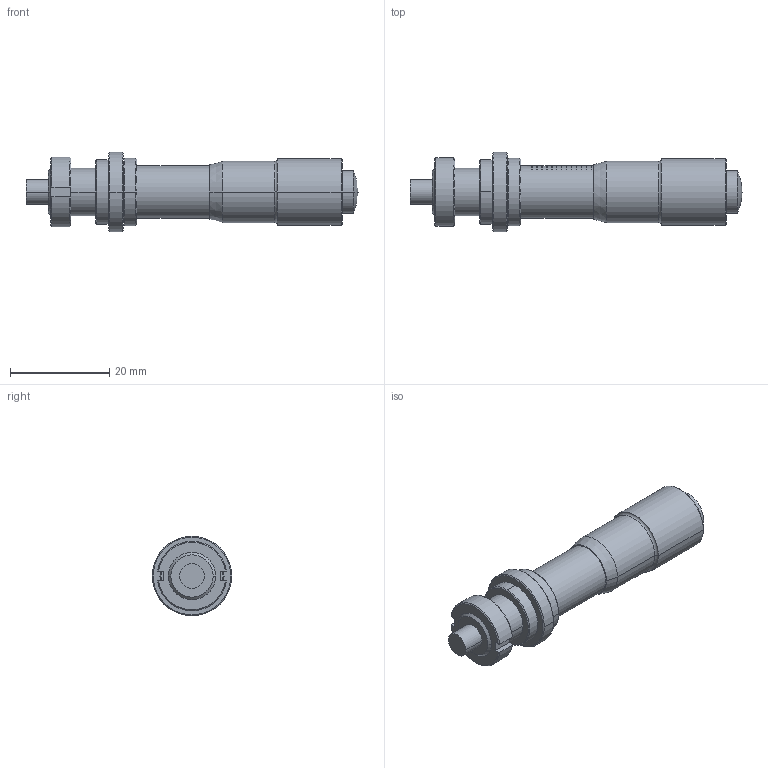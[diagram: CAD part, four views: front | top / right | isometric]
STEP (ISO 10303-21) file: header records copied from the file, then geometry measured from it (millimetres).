
FILE_DESCRIPTION((''),'2;1');
FILE_NAME('MICRO-HEAD-13-F-N-STOPPER','2021-07-12T17:43:39',('windows10'),(''),'CREO PARAMETRIC BY PTC INC, 2018260','CREO PARAMETRIC BY PTC INC, 2018260','');
FILE_SCHEMA(('CONFIG_CONTROL_DESIGN'));
Length unit declared in the file: millimetre
Products named in the file (1): MICRO-HEAD-13-F-N-STOPPER
Bounding box: 66.8 x 16 x 16 mm (x, y, z)
Volume: 6097.1 mm3; surface area: 5256.2 mm2
Topology: 1 solids, 6 shells, 387 faces, 969 edges, 639 vertices
Faces by surface type: plane 280, cylinder 81, cone 20, torus 4, sphere 2
Entity records: 11579 total; most frequent: CARTESIAN_POINT 2444, ORIENTED_EDGE 1930, DIRECTION 1783, EDGE_CURVE 967, AXIS2_PLACEMENT_3D 654, VERTEX_POINT 639, VECTOR 475, LINE 475
